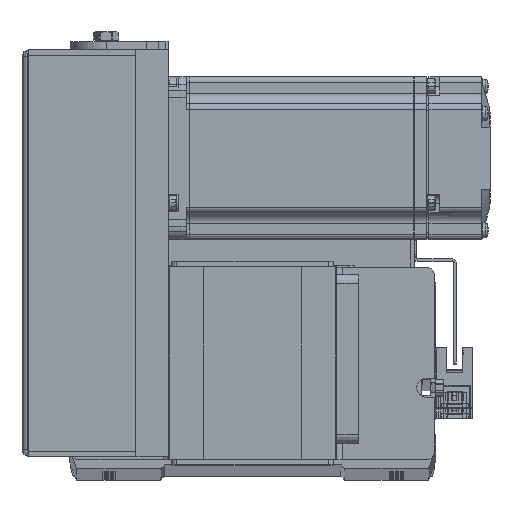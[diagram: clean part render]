
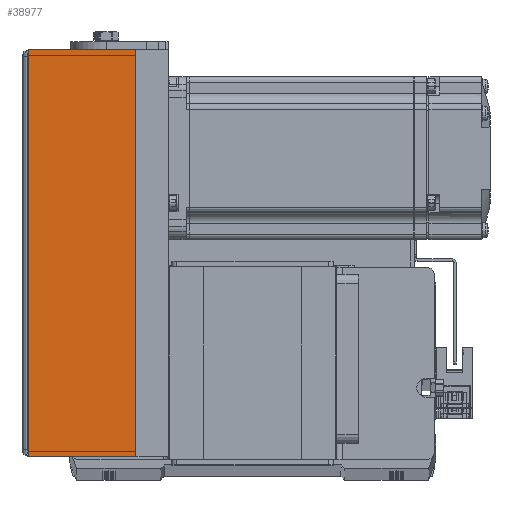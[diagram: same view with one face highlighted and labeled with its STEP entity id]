
A CAD part, top view. The second image highlights one B-rep face of the part: STEP entity #38977.
In plain terms, the highlighted planar face has unit normal (0, 0, 1) as drawn and (0, 1, 0) by its records, which use the part's own axes.
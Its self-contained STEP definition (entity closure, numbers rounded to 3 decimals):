
#547 = CARTESIAN_POINT ( 'NONE',  ( 75., 36., 12. ) ) ;
#1294 = DIRECTION ( 'NONE',  ( 0., 0., 1. ) ) ;
#3154 = ORIENTED_EDGE ( 'NONE', *, *, #35831, .T. ) ;
#3997 = LINE ( 'NONE', #31929, #10068 ) ;
#4956 = VECTOR ( 'NONE', #36108, 1000. ) ;
#5199 = EDGE_LOOP ( 'NONE', ( #30544, #3154, #28416, #37024 ) ) ;
#7807 = DIRECTION ( 'NONE',  ( 0., 0., -1. ) ) ;
#7885 = EDGE_CURVE ( 'NONE', #11782, #32370, #19881, .T. ) ;
#10068 = VECTOR ( 'NONE', #16267, 1000. ) ;
#10179 = CARTESIAN_POINT ( 'NONE',  ( -75., 36., 12. ) ) ;
#11782 = VERTEX_POINT ( 'NONE', #547 ) ;
#12976 = CARTESIAN_POINT ( 'NONE',  ( 0., 36., 52. ) ) ;
#14030 = CARTESIAN_POINT ( 'NONE',  ( -75., 36., 51.5 ) ) ;
#14753 = CARTESIAN_POINT ( 'NONE',  ( 75., 36., 51.5 ) ) ;
#16267 = DIRECTION ( 'NONE',  ( -1., 0., 0. ) ) ;
#16584 = FACE_OUTER_BOUND ( 'NONE', #5199, .T. ) ;
#16783 = PLANE ( 'NONE',  #36318 ) ;
#19881 = LINE ( 'NONE', #39121, #4956 ) ;
#20785 = DIRECTION ( 'NONE',  ( 0., 0., -1. ) ) ;
#23361 = CARTESIAN_POINT ( 'NONE',  ( 75., 36., 51.5 ) ) ;
#23421 = VERTEX_POINT ( 'NONE', #23361 ) ;
#24192 = LINE ( 'NONE', #14753, #38686 ) ;
#25020 = VECTOR ( 'NONE', #7807, 1000. ) ;
#28416 = ORIENTED_EDGE ( 'NONE', *, *, #7885, .T. ) ;
#28830 = DIRECTION ( 'NONE',  ( 0., -1., 0. ) ) ;
#28832 = EDGE_CURVE ( 'NONE', #23421, #29504, #3997, .T. ) ;
#29504 = VERTEX_POINT ( 'NONE', #31832 ) ;
#30544 = ORIENTED_EDGE ( 'NONE', *, *, #28832, .F. ) ;
#30896 = EDGE_CURVE ( 'NONE', #29504, #32370, #35721, .T. ) ;
#31832 = CARTESIAN_POINT ( 'NONE',  ( -75., 36., 51.5 ) ) ;
#31929 = CARTESIAN_POINT ( 'NONE',  ( -75., 36., 51.5 ) ) ;
#32370 = VERTEX_POINT ( 'NONE', #10179 ) ;
#35721 = LINE ( 'NONE', #14030, #25020 ) ;
#35831 = EDGE_CURVE ( 'NONE', #23421, #11782, #24192, .T. ) ;
#36108 = DIRECTION ( 'NONE',  ( -1., 0., 0. ) ) ;
#36318 = AXIS2_PLACEMENT_3D ( 'NONE', #12976, #28830, #1294 ) ;
#37024 = ORIENTED_EDGE ( 'NONE', *, *, #30896, .F. ) ;
#38686 = VECTOR ( 'NONE', #20785, 1000. ) ;
#38977 = ADVANCED_FACE ( 'NONE', ( #16584 ), #16783, .F. ) ;
#39121 = CARTESIAN_POINT ( 'NONE',  ( 0., 36., 12. ) ) ;
